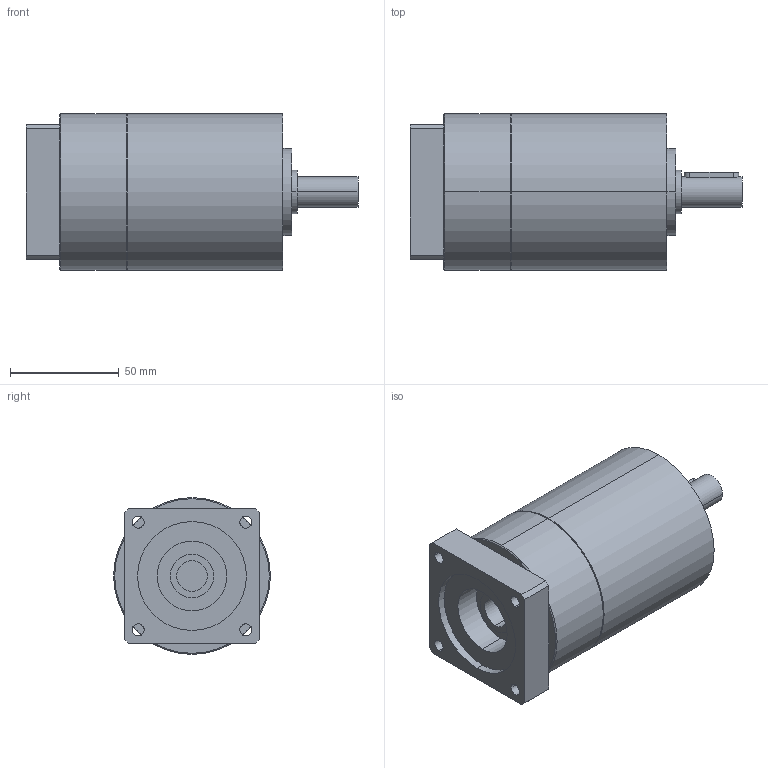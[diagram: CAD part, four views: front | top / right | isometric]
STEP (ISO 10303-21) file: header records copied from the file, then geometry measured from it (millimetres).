
FILE_DESCRIPTION(('CoCreate Modeling STEP Export'),'2;1');
FILE_NAME('GPT75_ig-9-12-16-20-25-28-35-40-50-70-100_14_B14T_14_P23.stp','2014-08-27T13:17:19',(''),(''),'CoCreate Modeling STEP processor for AP214 (Solid Model)','CoCreate Modeling 16.00C 25-Feb-2009 (C) Parametric Technology GmbH','');
FILE_SCHEMA(('AUTOMOTIVE_DESIGN { 1 0 10303 214 1 1 1 1 }'));
Length unit declared in the file: millimetre
Products named in the file (2): GPT75_ig-9-12-16-20-25-28-35-40-50-70-100_14_B14T_14_P23
Assembly tree (1 placements, depth 2):
  GPT75_ig-9-12-16-20-25-28-35-40-50-70-100_14_B14T_14_P23
    GPT75_ig-9-12-16-20-25-28-35-40-50-70-100_14_B14T_14_P23
Bounding box: 152.5 x 72 x 72 mm (x, y, z)
Volume: 464277.4 mm3; surface area: 43009.1 mm2
Topology: 1 solids, 1 shells, 80 faces, 198 edges, 129 vertices
Faces by surface type: cylinder 42, plane 34, cone 4
Entity records: 2353 total; most frequent: CARTESIAN_POINT 689, ORIENTED_EDGE 396, DIRECTION 276, EDGE_CURVE 198, VERTEX_POINT 129, AXIS2_PLACEMENT_3D 104, EDGE_LOOP 97, FACE_OUTER_BOUND 80
